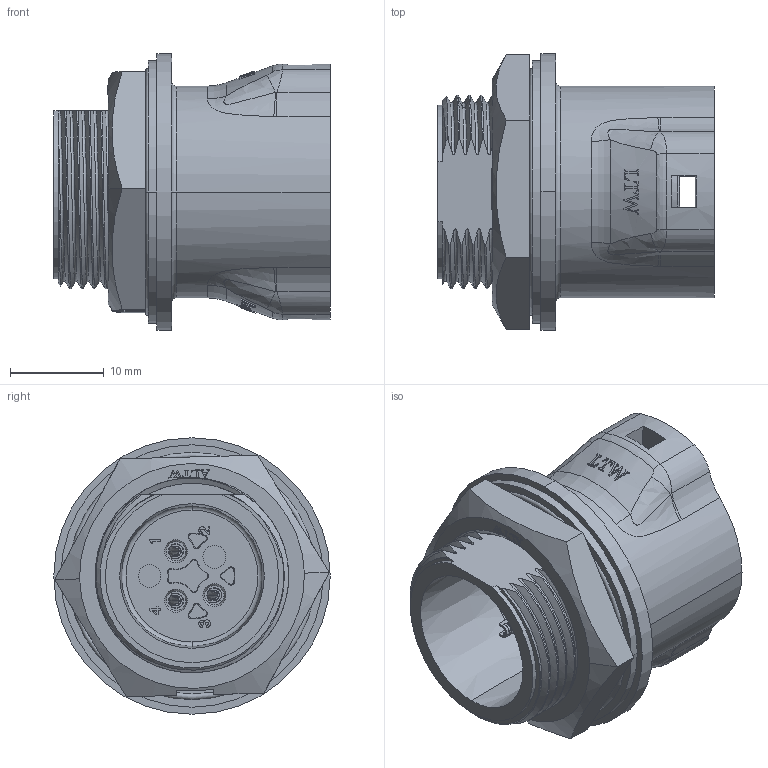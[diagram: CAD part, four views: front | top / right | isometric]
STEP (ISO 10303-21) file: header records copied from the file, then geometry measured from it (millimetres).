
FILE_DESCRIPTION((''),'2;1');
FILE_NAME('CD-03RFFS-RC8CXX_SW0001','2021-10-14T',('L100003'),(''),'PRO/ENGINEER BY PARAMETRIC TECHNOLOGY CORPORATION, 2017170','PRO/ENGINEER BY PARAMETRIC TECHNOLOGY CORPORATION, 2017170','');
FILE_SCHEMA(('CONFIG_CONTROL_DESIGN'));
Length unit declared in the file: millimetre
Products named in the file (1): CD-03RFFS-RC8CXX_SW0001
Bounding box: 29.5 x 29.5 x 29.5 mm (x, y, z)
Volume: 7625.1 mm3; surface area: 7463.4 mm2
Topology: 1 solids, 1 shells, 1081 faces, 3022 edges, 1981 vertices
Faces by surface type: plane 591, cylinder 167, extrusion 120, bspline 105, cone 75, torus 21, sphere 2
Entity records: 44782 total; most frequent: CARTESIAN_POINT 18832, ORIENTED_EDGE 6040, DIRECTION 4380, EDGE_CURVE 3020, VERTEX_POINT 1981, VECTOR 1470, AXIS2_PLACEMENT_3D 1455, LINE 1350
